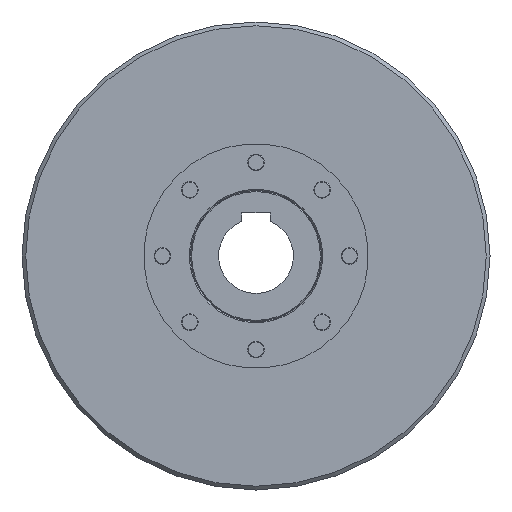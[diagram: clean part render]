
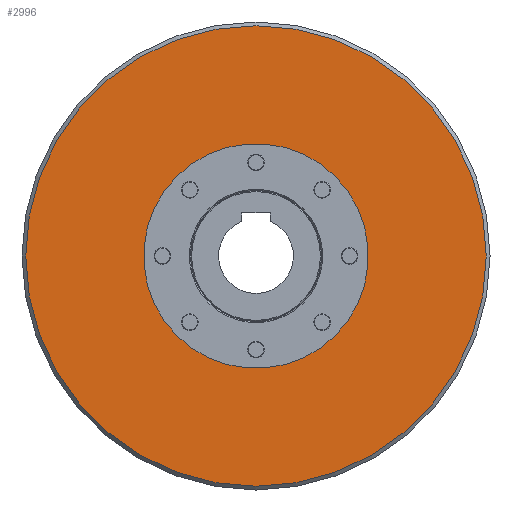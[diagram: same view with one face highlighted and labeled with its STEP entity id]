
A CAD part, left-side view. The second image highlights one B-rep face of the part: STEP entity #2996.
In plain terms, the highlighted planar face has unit normal (-1, 0, 0).
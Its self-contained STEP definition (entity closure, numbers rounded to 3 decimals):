
#492=FACE_BOUND('',#961,.T.);
#683=FACE_OUTER_BOUND('',#960,.T.);
#960=EDGE_LOOP('',(#2318));
#961=EDGE_LOOP('',(#2319));
#1131=CIRCLE('',#3120,60.);
#1192=CIRCLE('',#3297,123.);
#1281=VERTEX_POINT('',#4343);
#1438=VERTEX_POINT('',#5029);
#1544=EDGE_CURVE('',#1281,#1281,#1131,.T.);
#1757=EDGE_CURVE('',#1438,#1438,#1192,.T.);
#2318=ORIENTED_EDGE('',*,*,#1757,.F.);
#2319=ORIENTED_EDGE('',*,*,#1544,.T.);
#2618=PLANE('',#3296);
#2996=ADVANCED_FACE('',(#683,#492),#2618,.F.);
#3120=AXIS2_PLACEMENT_3D('',#4344,#3506,#3507);
#3296=AXIS2_PLACEMENT_3D('',#5028,#3954,#3955);
#3297=AXIS2_PLACEMENT_3D('',#5030,#3956,#3957);
#3506=DIRECTION('center_axis',(1.,0.,0.));
#3507=DIRECTION('ref_axis',(0.,0.707,0.707));
#3954=DIRECTION('center_axis',(1.,0.,0.));
#3955=DIRECTION('ref_axis',(0.,1.,0.));
#3956=DIRECTION('center_axis',(1.,0.,0.));
#3957=DIRECTION('ref_axis',(0.,-1.,0.));
#4343=CARTESIAN_POINT('',(-36.,-42.426,-42.426));
#4344=CARTESIAN_POINT('Origin',(-36.,0.,0.));
#5028=CARTESIAN_POINT('Origin',(-36.,210.485,0.));
#5029=CARTESIAN_POINT('',(-36.,123.,0.));
#5030=CARTESIAN_POINT('Origin',(-36.,0.,0.));
